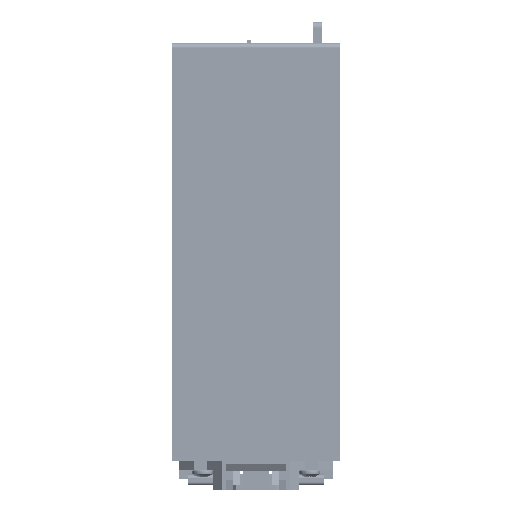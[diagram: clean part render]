
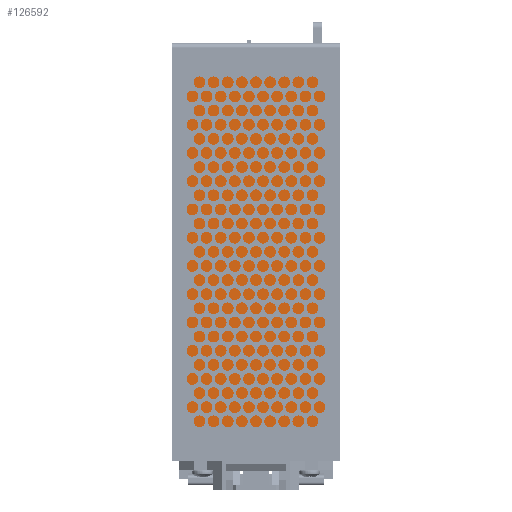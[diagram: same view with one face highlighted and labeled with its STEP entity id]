
A CAD part, front view. The second image highlights one B-rep face of the part: STEP entity #126592.
In plain terms, the highlighted planar face has unit normal (0, -1, 0) as drawn and (0, 0, 1) by its records, which use the part's own axes.
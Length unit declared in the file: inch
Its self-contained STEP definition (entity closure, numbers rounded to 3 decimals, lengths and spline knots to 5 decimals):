
#663 = PLANE ( 'NONE',  #62284 ) ;
#1606 = FACE_OUTER_BOUND ( 'NONE', #40012, .T. ) ;
#3844 = VERTEX_POINT ( 'NONE', #128357 ) ;
#7617 = LINE ( 'NONE', #66648, #61612 ) ;
#23108 = DIRECTION ( 'NONE',  ( 0., 1., 0. ) ) ;
#23537 = CARTESIAN_POINT ( 'NONE',  ( -0.068, 5.5019, 0. ) ) ;
#24948 = VECTOR ( 'NONE', #70148, 39.37008 ) ;
#27940 = ORIENTED_EDGE ( 'NONE', *, *, #94012, .T. ) ;
#30690 = CARTESIAN_POINT ( 'NONE',  ( -0.036, 0.0719, 0. ) ) ;
#35773 = CARTESIAN_POINT ( 'NONE',  ( -0.036, 5.4699, 0. ) ) ;
#37312 = LINE ( 'NONE', #186438, #24948 ) ;
#37325 = AXIS2_PLACEMENT_3D ( 'NONE', #124847, #151041, #182962 ) ;
#40012 = EDGE_LOOP ( 'NONE', ( #74244, #106881, #140050, #62119, #27940, #102397 ) ) ;
#42521 = LINE ( 'NONE', #102522, #168748 ) ;
#49379 = CIRCLE ( 'NONE', #55543, 0.032 ) ;
#54764 = EDGE_CURVE ( 'NONE', #71374, #173598, #37312, .T. ) ;
#55543 = AXIS2_PLACEMENT_3D ( 'NONE', #117837, #71382, #176888 ) ;
#56195 = VERTEX_POINT ( 'NONE', #30690 ) ;
#59696 = DIRECTION ( 'NONE',  ( 0., 0., 1. ) ) ;
#60656 = DIRECTION ( 'NONE',  ( 1., 0., 0. ) ) ;
#61465 = DIRECTION ( 'NONE',  ( 1., 0., 0. ) ) ;
#61612 = VECTOR ( 'NONE', #23108, 39.37008 ) ;
#62119 = ORIENTED_EDGE ( 'NONE', *, *, #54764, .T. ) ;
#62284 = AXIS2_PLACEMENT_3D ( 'NONE', #102340, #59696, #60656 ) ;
#66648 = CARTESIAN_POINT ( 'NONE',  ( -0.036, 0.0719, 0. ) ) ;
#69166 = VECTOR ( 'NONE', #61465, 39.37008 ) ;
#70148 = DIRECTION ( 'NONE',  ( -1., 0., 0. ) ) ;
#71374 = VERTEX_POINT ( 'NONE', #23537 ) ;
#71382 = DIRECTION ( 'NONE',  ( 0., 0., 1. ) ) ;
#74244 = ORIENTED_EDGE ( 'NONE', *, *, #128501, .T. ) ;
#76036 = EDGE_CURVE ( 'NONE', #3844, #139143, #42521, .T. ) ;
#88863 = VERTEX_POINT ( 'NONE', #35773 ) ;
#94012 = EDGE_CURVE ( 'NONE', #173598, #3844, #96086, .T. ) ;
#96086 = CIRCLE ( 'NONE', #37325, 0.032 ) ;
#102340 = CARTESIAN_POINT ( 'NONE',  ( -0.068, 5.4699, 0. ) ) ;
#102397 = ORIENTED_EDGE ( 'NONE', *, *, #76036, .T. ) ;
#102522 = CARTESIAN_POINT ( 'NONE',  ( -2.15, 5.4699, 0. ) ) ;
#106881 = ORIENTED_EDGE ( 'NONE', *, *, #107363, .T. ) ;
#107363 = EDGE_CURVE ( 'NONE', #56195, #88863, #7617, .T. ) ;
#115148 = DIRECTION ( 'NONE',  ( 0., -1., 0. ) ) ;
#116519 = EDGE_CURVE ( 'NONE', #88863, #71374, #49379, .T. ) ;
#117837 = CARTESIAN_POINT ( 'NONE',  ( -0.068, 5.4699, 0. ) ) ;
#119564 = CARTESIAN_POINT ( 'NONE',  ( -2.15, 0.0719, 0. ) ) ;
#124847 = CARTESIAN_POINT ( 'NONE',  ( -2.118, 5.4699, 0. ) ) ;
#126592 = ADVANCED_FACE ( 'NONE', ( #1606 ), #663, .T. ) ;
#128357 = CARTESIAN_POINT ( 'NONE',  ( -2.15, 5.4699, 0. ) ) ;
#128501 = EDGE_CURVE ( 'NONE', #139143, #56195, #151525, .T. ) ;
#139143 = VERTEX_POINT ( 'NONE', #156336 ) ;
#140050 = ORIENTED_EDGE ( 'NONE', *, *, #116519, .T. ) ;
#151041 = DIRECTION ( 'NONE',  ( 0., 0., 1. ) ) ;
#151525 = LINE ( 'NONE', #119564, #69166 ) ;
#156336 = CARTESIAN_POINT ( 'NONE',  ( -2.15, 0.0719, 0. ) ) ;
#161259 = CARTESIAN_POINT ( 'NONE',  ( -2.118, 5.5019, 0. ) ) ;
#168748 = VECTOR ( 'NONE', #115148, 39.37008 ) ;
#173598 = VERTEX_POINT ( 'NONE', #161259 ) ;
#176888 = DIRECTION ( 'NONE',  ( 1., 0., 0. ) ) ;
#182962 = DIRECTION ( 'NONE',  ( 1., 0., 0. ) ) ;
#186438 = CARTESIAN_POINT ( 'NONE',  ( -0.068, 5.5019, 0. ) ) ;
